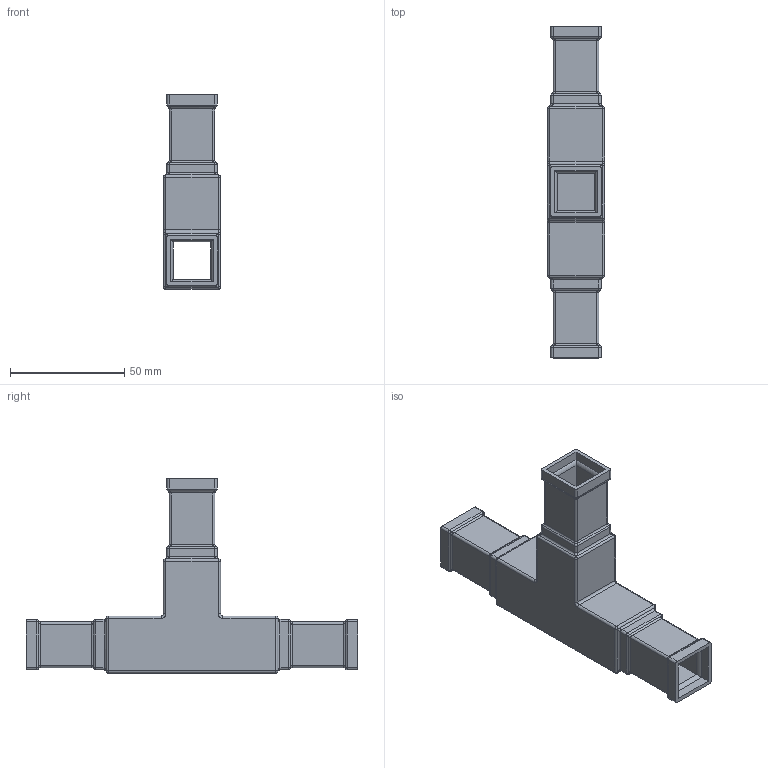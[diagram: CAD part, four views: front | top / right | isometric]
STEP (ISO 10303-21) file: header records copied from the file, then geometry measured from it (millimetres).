
FILE_DESCRIPTION (( 'STEP AP214' ), '1' );
FILE_NAME ('115.301.102.STEP', '2021-07-21T11:47:01', ( '' ), ( '' ), 'SwSTEP 2.0', 'SolidWorks 2018', '' );
FILE_SCHEMA (( 'AUTOMOTIVE_DESIGN' ));
Length unit declared in the file: millimetre
Products named in the file (1): 115.301.102
Bounding box: 25 x 145 x 85 mm (x, y, z)
Volume: 30431.5 mm3; surface area: 34064.6 mm2
Topology: 1 solids, 1 shells, 323 faces, 682 edges, 348 vertices
Faces by surface type: cylinder 158, plane 89, sphere 36, bspline 36, torus 4
Entity records: 9274 total; most frequent: CARTESIAN_POINT 2854, DIRECTION 1350, ORIENTED_EDGE 1340, EDGE_CURVE 670, AXIS2_PLACEMENT_3D 500, LINE 350, VECTOR 350, VERTEX_POINT 348
